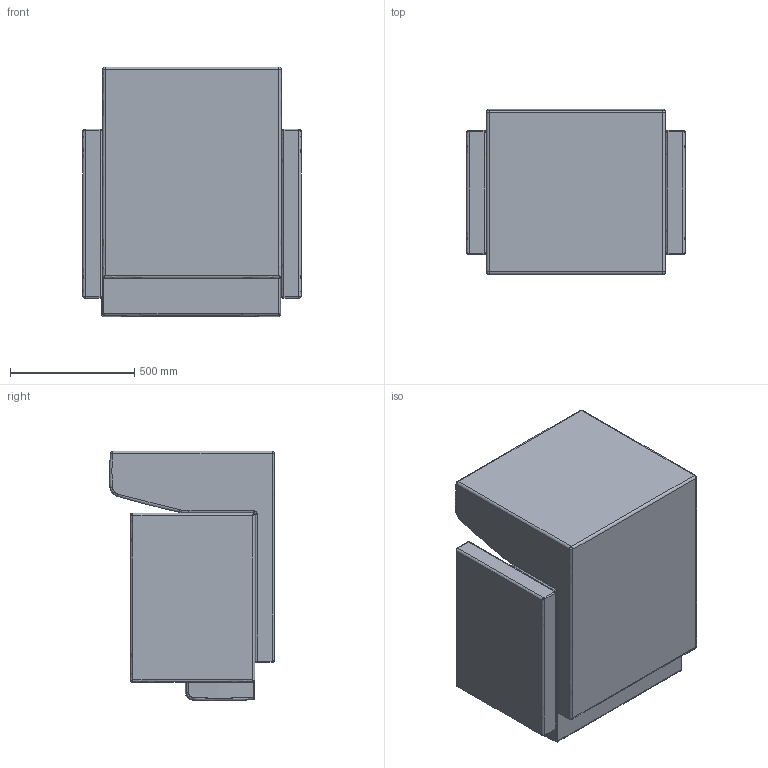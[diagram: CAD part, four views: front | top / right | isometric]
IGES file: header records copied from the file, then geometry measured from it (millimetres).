
Start section: SolidWorks IGES file using NURBS representation for surfaces
Global section: file name: D:\VICCARBE\PRODUCTOS\19-MASS\04-MODELADOS (PLANOS)\SOLIDWORKS\PIEZAS\VICCARBE_Mass_armchair.IGS; native system: SolidWorks 2009; preprocessor: SolidWorks 2009; author: RUBEN; date: 110908.172251; units: millimetre
Bounding box: 880 x 664.95 x 1004.97 mm (x, y, z)
Surface area: 6029586.1 mm2 (no closed solid volume)
Topology: 0 solids, 0 shells, 124 faces, 1178 edges, 1152 vertices
Faces by surface type: bspline 124
